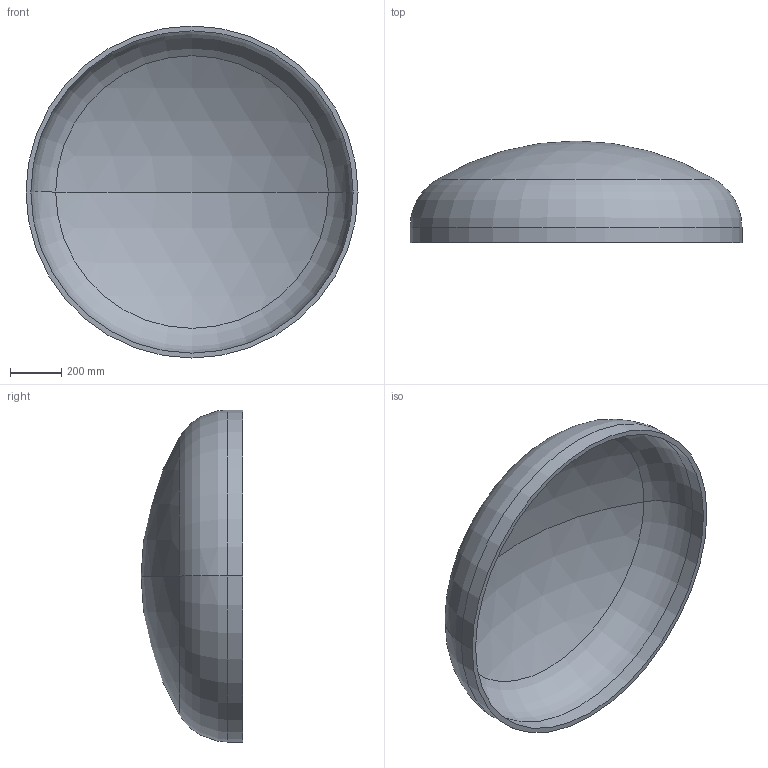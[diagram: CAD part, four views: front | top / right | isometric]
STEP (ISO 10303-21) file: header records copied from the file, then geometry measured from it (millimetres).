
FILE_DESCRIPTION (( 'STEP AP203' ), '1' );
FILE_NAME ('DIN 28013 Korbbogenform_-_Boden DIN 28013 - 1300 x 60 - I - s=19.step', '2016-07-01T09:45:06', ( '' ), ( '' ), 'SwSTEP 2.0', 'SolidWorks 2013', '' );
FILE_SCHEMA (( 'CONFIG_CONTROL_DESIGN' ));
Length unit declared in the file: millimetre
Products named in the file (1): DIN 28013 Korbbogenform_-_Boden DIN 28013 - 1300 x 60 - I - s=19
Bounding box: 1300 x 398 x 1300 mm (x, y, z)
Volume: 38841371.4 mm3; surface area: 4165783.3 mm2
Topology: 1 solids, 1 shells, 13 faces, 24 edges, 14 vertices
Faces by surface type: torus 4, cylinder 4, sphere 4, plane 1
Entity records: 407 total; most frequent: DIRECTION 72, CARTESIAN_POINT 52, ORIENTED_EDGE 48, AXIS2_PLACEMENT_3D 34, EDGE_CURVE 24, CIRCLE 20, EDGE_LOOP 14, VERTEX_POINT 14
